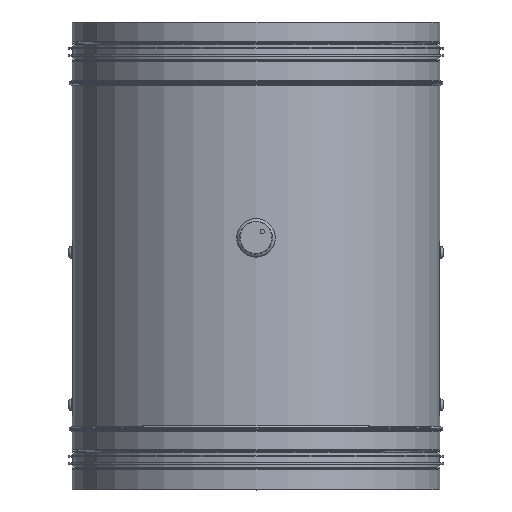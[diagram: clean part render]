
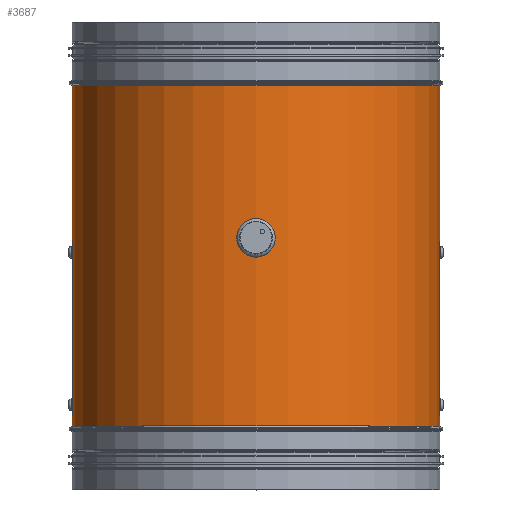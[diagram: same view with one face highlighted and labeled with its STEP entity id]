
A CAD part, top view. The second image highlights one B-rep face of the part: STEP entity #3687.
In plain terms, the highlighted cylindrical face has radius 124 mm (diameter 248 mm), a full revolution.
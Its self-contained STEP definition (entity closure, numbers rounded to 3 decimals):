
#108=CYLINDRICAL_SURFACE('',#4164,124.);
#307=FACE_OUTER_BOUND('',#553,.T.);
#553=EDGE_LOOP('',(#2797,#2798,#2799,#2800));
#817=CIRCLE('',#4163,124.);
#818=CIRCLE('',#4165,124.);
#1001=LINE('',#5873,#1261);
#1066=LINE('',#6068,#1326);
#1261=VECTOR('',#4560,10.);
#1326=VECTOR('',#4753,10.);
#1521=VERTEX_POINT('',#5866);
#1523=VERTEX_POINT('',#5872);
#1587=VERTEX_POINT('',#6061);
#1589=VERTEX_POINT('',#6067);
#1849=EDGE_CURVE('',#1523,#1521,#1001,.T.);
#1946=EDGE_CURVE('',#1587,#1589,#1066,.T.);
#2049=EDGE_CURVE('',#1587,#1523,#817,.T.);
#2050=EDGE_CURVE('',#1589,#1521,#818,.T.);
#2797=ORIENTED_EDGE('',*,*,#1849,.T.);
#2798=ORIENTED_EDGE('',*,*,#2050,.F.);
#2799=ORIENTED_EDGE('',*,*,#1946,.F.);
#2800=ORIENTED_EDGE('',*,*,#2049,.T.);
#3687=ADVANCED_FACE('',(#307),#108,.T.);
#4163=AXIS2_PLACEMENT_3D('',#6271,#5051,#5052);
#4164=AXIS2_PLACEMENT_3D('',#6272,#5053,#5054);
#4165=AXIS2_PLACEMENT_3D('',#6273,#5055,#5056);
#4560=DIRECTION('',(0.,0.,-1.));
#4753=DIRECTION('',(0.,0.,-1.));
#5051=DIRECTION('center_axis',(0.,0.,-1.));
#5052=DIRECTION('ref_axis',(1.,0.,0.));
#5053=DIRECTION('center_axis',(0.,0.,-1.));
#5054=DIRECTION('ref_axis',(-1.,0.,0.));
#5055=DIRECTION('center_axis',(0.,0.,-1.));
#5056=DIRECTION('ref_axis',(1.,0.,0.));
#5866=CARTESIAN_POINT('',(124.,0.022,-114.75));
#5872=CARTESIAN_POINT('',(124.,0.022,114.75));
#5873=CARTESIAN_POINT('',(124.,0.022,0.));
#6061=CARTESIAN_POINT('',(124.,0.,114.75));
#6067=CARTESIAN_POINT('',(124.,0.,-114.75));
#6068=CARTESIAN_POINT('',(124.,0.,114.75));
#6271=CARTESIAN_POINT('Origin',(0.,0.,114.75));
#6272=CARTESIAN_POINT('Origin',(0.,0.,0.));
#6273=CARTESIAN_POINT('Origin',(0.,0.,-114.75));
